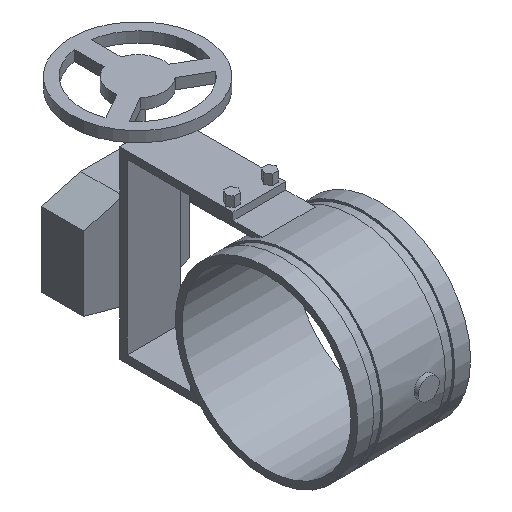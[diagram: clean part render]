
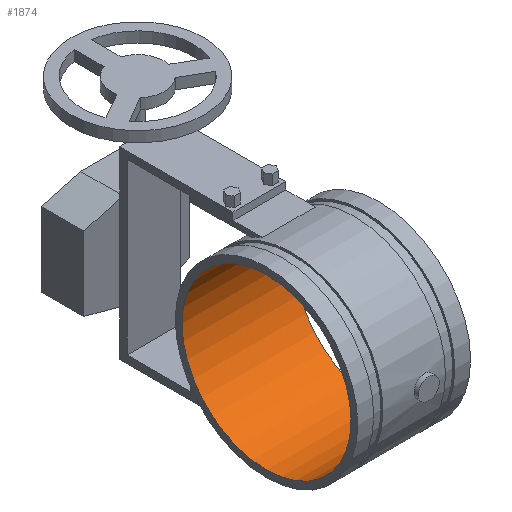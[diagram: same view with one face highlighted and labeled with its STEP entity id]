
A CAD part, isometric view. The second image highlights one B-rep face of the part: STEP entity #1874.
In plain terms, the highlighted cylindrical face has radius 101.359 mm (diameter 202.717 mm), a full revolution.
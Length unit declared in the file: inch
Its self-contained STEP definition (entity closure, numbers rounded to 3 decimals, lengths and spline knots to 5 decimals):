
#75=CYLINDRICAL_SURFACE('',#1999,3.9905);
#98=CIRCLE('',#2000,3.9905);
#99=CIRCLE('',#2001,3.9905);
#100=CIRCLE('',#2002,3.9905);
#101=CIRCLE('',#2003,3.9905);
#149=FACE_OUTER_BOUND('',#247,.T.);
#247=EDGE_LOOP('',(#1247,#1248,#1249,#1250,#1251,#1252));
#378=LINE('',#2815,#579);
#579=VECTOR('',#2214,3.9905);
#785=VERTEX_POINT('',#2811);
#786=VERTEX_POINT('',#2812);
#787=VERTEX_POINT('',#2814);
#788=VERTEX_POINT('',#2816);
#968=EDGE_CURVE('',#785,#786,#98,.T.);
#969=EDGE_CURVE('',#786,#787,#378,.T.);
#970=EDGE_CURVE('',#788,#787,#99,.T.);
#971=EDGE_CURVE('',#787,#788,#100,.T.);
#972=EDGE_CURVE('',#786,#785,#101,.T.);
#1247=ORIENTED_EDGE('',*,*,#968,.T.);
#1248=ORIENTED_EDGE('',*,*,#969,.T.);
#1249=ORIENTED_EDGE('',*,*,#970,.F.);
#1250=ORIENTED_EDGE('',*,*,#971,.F.);
#1251=ORIENTED_EDGE('',*,*,#969,.F.);
#1252=ORIENTED_EDGE('',*,*,#972,.T.);
#1874=ADVANCED_FACE('',(#149),#75,.F.);
#1999=AXIS2_PLACEMENT_3D('',#2810,#2210,#2211);
#2000=AXIS2_PLACEMENT_3D('',#2813,#2212,#2213);
#2001=AXIS2_PLACEMENT_3D('',#2817,#2215,#2216);
#2002=AXIS2_PLACEMENT_3D('',#2818,#2217,#2218);
#2003=AXIS2_PLACEMENT_3D('',#2819,#2219,#2220);
#2210=DIRECTION('center_axis',(1.,0.,0.));
#2211=DIRECTION('ref_axis',(0.,1.,0.));
#2212=DIRECTION('center_axis',(1.,0.,0.));
#2213=DIRECTION('ref_axis',(0.,0.,-1.));
#2214=DIRECTION('',(-1.,0.,0.));
#2215=DIRECTION('center_axis',(1.,0.,0.));
#2216=DIRECTION('ref_axis',(0.,0.,-1.));
#2217=DIRECTION('center_axis',(1.,0.,0.));
#2218=DIRECTION('ref_axis',(0.,0.,-1.));
#2219=DIRECTION('center_axis',(1.,0.,0.));
#2220=DIRECTION('ref_axis',(0.,0.,-1.));
#2810=CARTESIAN_POINT('Origin',(0.,0.,
0.));
#2811=CARTESIAN_POINT('',(2.665,3.9905,0.));
#2812=CARTESIAN_POINT('',(2.665,-3.9905,0.));
#2813=CARTESIAN_POINT('Origin',(2.665,0.,0.));
#2814=CARTESIAN_POINT('',(-2.665,-3.9905,0.));
#2815=CARTESIAN_POINT('',(0.,-3.9905,0.));
#2816=CARTESIAN_POINT('',(-2.665,3.9905,0.));
#2817=CARTESIAN_POINT('Origin',(-2.665,0.,0.));
#2818=CARTESIAN_POINT('Origin',(-2.665,0.,0.));
#2819=CARTESIAN_POINT('Origin',(2.665,0.,0.));
